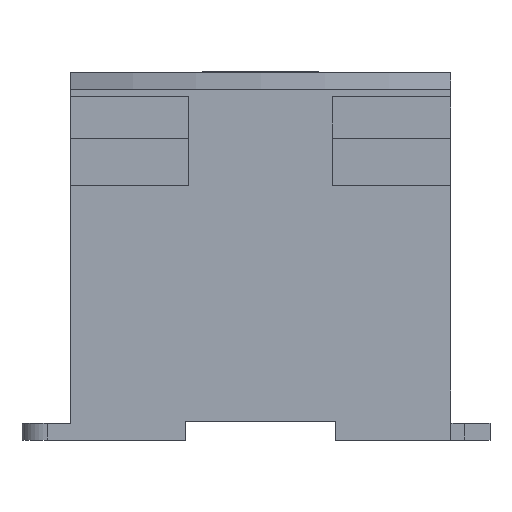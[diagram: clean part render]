
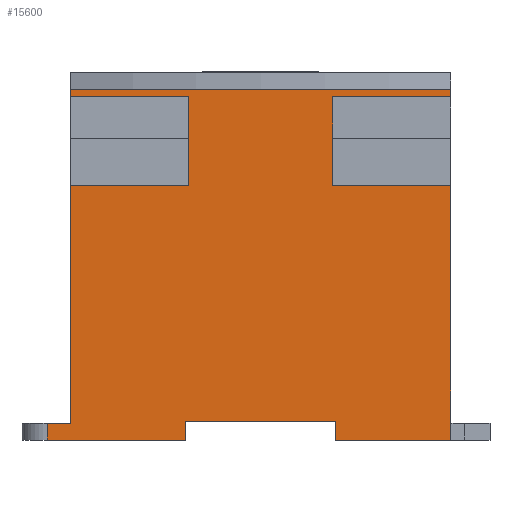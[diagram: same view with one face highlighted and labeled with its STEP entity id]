
A CAD part, top view. The second image highlights one B-rep face of the part: STEP entity #15600.
In plain terms, the highlighted planar face has unit normal (0, 0, 1).
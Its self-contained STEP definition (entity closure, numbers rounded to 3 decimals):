
#5 = ORIENTED_EDGE ( 'NONE', *, *, #2298, .F. ) ;
#120 = EDGE_CURVE ( 'NONE', #414, #16191, #19214, .T. ) ;
#349 = EDGE_CURVE ( 'NONE', #23736, #26946, #17804, .T. ) ;
#414 = VERTEX_POINT ( 'NONE', #28169 ) ;
#585 = VECTOR ( 'NONE', #25760, 1000. ) ;
#1050 = AXIS2_PLACEMENT_3D ( 'NONE', #14452, #17128, #24200 ) ;
#1072 = VECTOR ( 'NONE', #26559, 1000. ) ;
#1271 = ORIENTED_EDGE ( 'NONE', *, *, #7063, .F. ) ;
#1549 = VERTEX_POINT ( 'NONE', #30155 ) ;
#1691 = EDGE_CURVE ( 'NONE', #29326, #2580, #22430, .T. ) ;
#1801 = LINE ( 'NONE', #21019, #22007 ) ;
#2083 = VECTOR ( 'NONE', #15850, 1000. ) ;
#2105 = DIRECTION ( 'NONE',  ( 0., -1., 0. ) ) ;
#2106 = LINE ( 'NONE', #19259, #15468 ) ;
#2298 = EDGE_CURVE ( 'NONE', #7434, #29326, #3228, .T. ) ;
#2410 = EDGE_CURVE ( 'NONE', #17156, #27981, #1801, .T. ) ;
#2580 = VERTEX_POINT ( 'NONE', #8700 ) ;
#2707 = CARTESIAN_POINT ( 'NONE',  ( -28., 81.25, 0. ) ) ;
#3228 = LINE ( 'NONE', #12852, #24519 ) ;
#3573 = DIRECTION ( 'NONE',  ( 0., -1., 0. ) ) ;
#4571 = CARTESIAN_POINT ( 'NONE',  ( 0., 83., 0. ) ) ;
#4910 = ORIENTED_EDGE ( 'NONE', *, *, #2410, .T. ) ;
#5246 = DIRECTION ( 'NONE',  ( 1., 0., 0. ) ) ;
#5559 = VERTEX_POINT ( 'NONE', #28648 ) ;
#5966 = CARTESIAN_POINT ( 'NONE',  ( -27.25, 4.5, 0. ) ) ;
#6098 = LINE ( 'NONE', #18242, #29916 ) ;
#6130 = EDGE_CURVE ( 'NONE', #26946, #5559, #7781, .T. ) ;
#6236 = CARTESIAN_POINT ( 'NONE',  ( 0., 83., 0. ) ) ;
#6469 = CARTESIAN_POINT ( 'NONE',  ( 0., 0., 0. ) ) ;
#6632 = CARTESIAN_POINT ( 'NONE',  ( -62., 60.25, 0. ) ) ;
#6820 = ORIENTED_EDGE ( 'NONE', *, *, #8081, .T. ) ;
#7063 = EDGE_CURVE ( 'NONE', #1549, #19079, #24275, .T. ) ;
#7165 = LINE ( 'NONE', #7470, #28439 ) ;
#7352 = ORIENTED_EDGE ( 'NONE', *, *, #28606, .F. ) ;
#7412 = VECTOR ( 'NONE', #27158, 1000. ) ;
#7434 = VERTEX_POINT ( 'NONE', #21091 ) ;
#7470 = CARTESIAN_POINT ( 'NONE',  ( -90., 60.25, 0. ) ) ;
#7473 = DIRECTION ( 'NONE',  ( 1., 0., 0. ) ) ;
#7781 = LINE ( 'NONE', #17242, #15163 ) ;
#8063 = VECTOR ( 'NONE', #29687, 1000. ) ;
#8081 = EDGE_CURVE ( 'NONE', #29704, #19798, #26938, .T. ) ;
#8700 = CARTESIAN_POINT ( 'NONE',  ( -62.75, 4.5, 0. ) ) ;
#9532 = ORIENTED_EDGE ( 'NONE', *, *, #18476, .F. ) ;
#9725 = EDGE_CURVE ( 'NONE', #27382, #1549, #25746, .T. ) ;
#10330 = CARTESIAN_POINT ( 'NONE',  ( -95.5, 0., 0. ) ) ;
#10468 = ORIENTED_EDGE ( 'NONE', *, *, #14892, .F. ) ;
#10544 = CARTESIAN_POINT ( 'NONE',  ( -95.5, 4., 0. ) ) ;
#10613 = EDGE_CURVE ( 'NONE', #29065, #20498, #13956, .T. ) ;
#10633 = CARTESIAN_POINT ( 'NONE',  ( -28., 81.25, 0. ) ) ;
#10804 = VECTOR ( 'NONE', #30044, 1000. ) ;
#11412 = EDGE_CURVE ( 'NONE', #17156, #27382, #29090, .T. ) ;
#11482 = EDGE_CURVE ( 'NONE', #2580, #5559, #6098, .T. ) ;
#11589 = CARTESIAN_POINT ( 'NONE',  ( -62., 81.25, 0. ) ) ;
#11627 = CARTESIAN_POINT ( 'NONE',  ( -90., 83., 0. ) ) ;
#12178 = DIRECTION ( 'NONE',  ( 1., 0., 0. ) ) ;
#12331 = DIRECTION ( 'NONE',  ( -1., 0., 0. ) ) ;
#12452 = VECTOR ( 'NONE', #23007, 1000. ) ;
#12509 = CARTESIAN_POINT ( 'NONE',  ( -28., 60.25, 0. ) ) ;
#12852 = CARTESIAN_POINT ( 'NONE',  ( -27.25, 0., 0. ) ) ;
#13650 = ORIENTED_EDGE ( 'NONE', *, *, #22481, .F. ) ;
#13956 = LINE ( 'NONE', #16017, #585 ) ;
#14186 = DIRECTION ( 'NONE',  ( 0., -1., 0. ) ) ;
#14452 = CARTESIAN_POINT ( 'NONE',  ( -90., 83., 0. ) ) ;
#14572 = DIRECTION ( 'NONE',  ( 0., 1., 0. ) ) ;
#14867 = CARTESIAN_POINT ( 'NONE',  ( -90., 4., 0. ) ) ;
#14892 = EDGE_CURVE ( 'NONE', #29704, #29065, #7165, .T. ) ;
#15128 = ORIENTED_EDGE ( 'NONE', *, *, #349, .T. ) ;
#15163 = VECTOR ( 'NONE', #7473, 1000. ) ;
#15216 = CARTESIAN_POINT ( 'NONE',  ( -28., 60.25, 0. ) ) ;
#15468 = VECTOR ( 'NONE', #12178, 1000. ) ;
#15600 = ADVANCED_FACE ( 'NONE', ( #28777 ), #16809, .T. ) ;
#15616 = CARTESIAN_POINT ( 'NONE',  ( -90., 60.25, 0. ) ) ;
#15850 = DIRECTION ( 'NONE',  ( 0., -1., 0. ) ) ;
#16017 = CARTESIAN_POINT ( 'NONE',  ( -62., 81.25, 0. ) ) ;
#16191 = VERTEX_POINT ( 'NONE', #6469 ) ;
#16809 = PLANE ( 'NONE',  #1050 ) ;
#16963 = LINE ( 'NONE', #21996, #1072 ) ;
#17067 = LINE ( 'NONE', #12509, #22477 ) ;
#17128 = DIRECTION ( 'NONE',  ( 0., 0., 1. ) ) ;
#17156 = VERTEX_POINT ( 'NONE', #11627 ) ;
#17242 = CARTESIAN_POINT ( 'NONE',  ( -90., 0., 0. ) ) ;
#17327 = EDGE_CURVE ( 'NONE', #19798, #23736, #16963, .T. ) ;
#17500 = CARTESIAN_POINT ( 'NONE',  ( -90., 83., 0. ) ) ;
#17626 = EDGE_LOOP ( 'NONE', ( #21048, #27381, #5, #21812, #18078, #7352, #9532, #1271, #23267, #30043, #4910, #13650, #19131, #10468, #6820, #25247, #15128, #28579 ) ) ;
#17804 = LINE ( 'NONE', #10544, #29776 ) ;
#18078 = ORIENTED_EDGE ( 'NONE', *, *, #120, .F. ) ;
#18242 = CARTESIAN_POINT ( 'NONE',  ( -62.75, 0., 0. ) ) ;
#18476 = EDGE_CURVE ( 'NONE', #19079, #25117, #20389, .T. ) ;
#18668 = CARTESIAN_POINT ( 'NONE',  ( 0., 83., 0. ) ) ;
#18711 = VECTOR ( 'NONE', #12331, 1000. ) ;
#19079 = VERTEX_POINT ( 'NONE', #30722 ) ;
#19131 = ORIENTED_EDGE ( 'NONE', *, *, #10613, .F. ) ;
#19214 = LINE ( 'NONE', #4571, #25731 ) ;
#19259 = CARTESIAN_POINT ( 'NONE',  ( -90., 0., 0. ) ) ;
#19798 = VERTEX_POINT ( 'NONE', #14867 ) ;
#20389 = LINE ( 'NONE', #10633, #8063 ) ;
#20498 = VERTEX_POINT ( 'NONE', #11589 ) ;
#20699 = CARTESIAN_POINT ( 'NONE',  ( -62.75, 4.5, 0. ) ) ;
#21019 = CARTESIAN_POINT ( 'NONE',  ( -90., 83., 0. ) ) ;
#21048 = ORIENTED_EDGE ( 'NONE', *, *, #11482, .F. ) ;
#21091 = CARTESIAN_POINT ( 'NONE',  ( -27.25, 0., 0. ) ) ;
#21254 = CARTESIAN_POINT ( 'NONE',  ( -90., 81.25, 0. ) ) ;
#21812 = ORIENTED_EDGE ( 'NONE', *, *, #29988, .T. ) ;
#21996 = CARTESIAN_POINT ( 'NONE',  ( -95.5, 4., 0. ) ) ;
#22007 = VECTOR ( 'NONE', #2105, 1000. ) ;
#22430 = LINE ( 'NONE', #20699, #7412 ) ;
#22477 = VECTOR ( 'NONE', #5246, 1000. ) ;
#22481 = EDGE_CURVE ( 'NONE', #20498, #27981, #27430, .T. ) ;
#23007 = DIRECTION ( 'NONE',  ( -1., 0., 0. ) ) ;
#23267 = ORIENTED_EDGE ( 'NONE', *, *, #9725, .F. ) ;
#23736 = VERTEX_POINT ( 'NONE', #29416 ) ;
#23845 = DIRECTION ( 'NONE',  ( 1., 0., 0. ) ) ;
#24200 = DIRECTION ( 'NONE',  ( 1., 0., 0. ) ) ;
#24275 = LINE ( 'NONE', #2707, #18711 ) ;
#24519 = VECTOR ( 'NONE', #14572, 1000. ) ;
#24876 = DIRECTION ( 'NONE',  ( 0., -1., 0. ) ) ;
#24901 = CARTESIAN_POINT ( 'NONE',  ( -90., 81.25, 0. ) ) ;
#25117 = VERTEX_POINT ( 'NONE', #15216 ) ;
#25247 = ORIENTED_EDGE ( 'NONE', *, *, #17327, .T. ) ;
#25731 = VECTOR ( 'NONE', #14186, 1000. ) ;
#25746 = LINE ( 'NONE', #6236, #2083 ) ;
#25760 = DIRECTION ( 'NONE',  ( 0., 1., 0. ) ) ;
#26559 = DIRECTION ( 'NONE',  ( -1., 0., 0. ) ) ;
#26938 = LINE ( 'NONE', #17500, #29191 ) ;
#26946 = VERTEX_POINT ( 'NONE', #10330 ) ;
#27158 = DIRECTION ( 'NONE',  ( -1., 0., 0. ) ) ;
#27381 = ORIENTED_EDGE ( 'NONE', *, *, #1691, .F. ) ;
#27382 = VERTEX_POINT ( 'NONE', #18668 ) ;
#27430 = LINE ( 'NONE', #24901, #12452 ) ;
#27981 = VERTEX_POINT ( 'NONE', #21254 ) ;
#28169 = CARTESIAN_POINT ( 'NONE',  ( 0., 60.25, 0. ) ) ;
#28439 = VECTOR ( 'NONE', #23845, 1000. ) ;
#28579 = ORIENTED_EDGE ( 'NONE', *, *, #6130, .T. ) ;
#28606 = EDGE_CURVE ( 'NONE', #25117, #414, #17067, .T. ) ;
#28648 = CARTESIAN_POINT ( 'NONE',  ( -62.75, 0., 0. ) ) ;
#28777 = FACE_OUTER_BOUND ( 'NONE', #17626, .T. ) ;
#29065 = VERTEX_POINT ( 'NONE', #6632 ) ;
#29090 = LINE ( 'NONE', #29892, #10804 ) ;
#29191 = VECTOR ( 'NONE', #24876, 1000. ) ;
#29326 = VERTEX_POINT ( 'NONE', #5966 ) ;
#29416 = CARTESIAN_POINT ( 'NONE',  ( -95.5, 4., 0. ) ) ;
#29687 = DIRECTION ( 'NONE',  ( 0., -1., 0. ) ) ;
#29704 = VERTEX_POINT ( 'NONE', #15616 ) ;
#29776 = VECTOR ( 'NONE', #29923, 1000. ) ;
#29892 = CARTESIAN_POINT ( 'NONE',  ( -90., 83., 0. ) ) ;
#29916 = VECTOR ( 'NONE', #3573, 1000. ) ;
#29923 = DIRECTION ( 'NONE',  ( 0., -1., 0. ) ) ;
#29988 = EDGE_CURVE ( 'NONE', #7434, #16191, #2106, .T. ) ;
#30043 = ORIENTED_EDGE ( 'NONE', *, *, #11412, .F. ) ;
#30044 = DIRECTION ( 'NONE',  ( 1., 0., 0. ) ) ;
#30155 = CARTESIAN_POINT ( 'NONE',  ( 0., 81.25, 0. ) ) ;
#30722 = CARTESIAN_POINT ( 'NONE',  ( -28., 81.25, 0. ) ) ;
